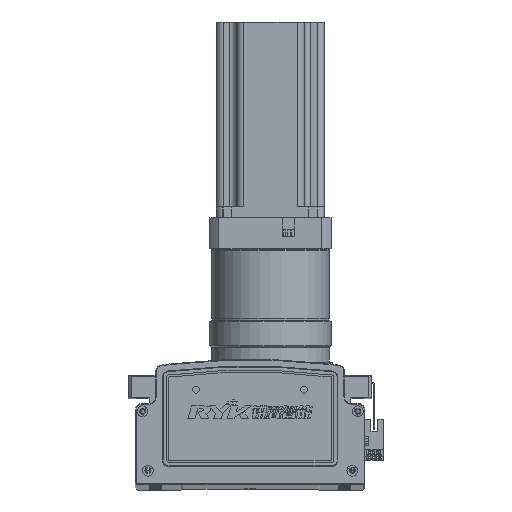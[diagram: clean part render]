
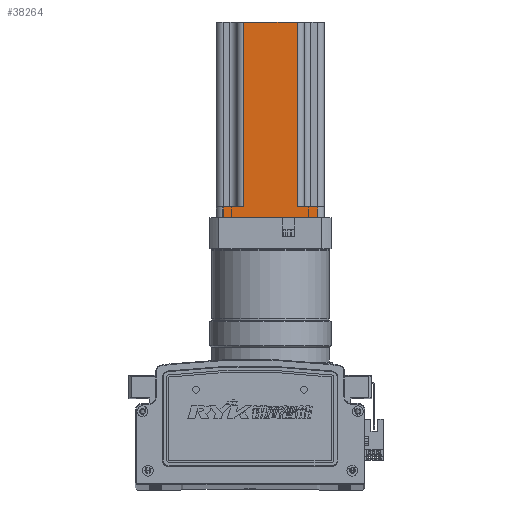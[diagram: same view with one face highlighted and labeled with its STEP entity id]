
A CAD part, top view. The second image highlights one B-rep face of the part: STEP entity #38264.
In plain terms, the highlighted planar face has unit normal (0, 0, 1) as drawn and (0, -1, 0) by its records, which use the part's own axes.
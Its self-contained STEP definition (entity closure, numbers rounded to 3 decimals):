
#1243 = DIRECTION ( 'NONE',  ( 1., 0., 0. ) ) ;
#1248 = CARTESIAN_POINT ( 'NONE',  ( -87.587, -40.37, 8. ) ) ;
#1254 = CARTESIAN_POINT ( 'NONE',  ( -87.587, -40.37, 0. ) ) ;
#1257 = DIRECTION ( 'NONE',  ( 1., 0., 0. ) ) ;
#1258 = CARTESIAN_POINT ( 'NONE',  ( -87.587, -40.37, 145. ) ) ;
#1261 = DIRECTION ( 'NONE',  ( 1., 0., 0. ) ) ;
#1274 = DIRECTION ( 'NONE',  ( 1., 0., 0. ) ) ;
#1288 = CARTESIAN_POINT ( 'NONE',  ( -7.587, -40.37, 8. ) ) ;
#1336 = CARTESIAN_POINT ( 'NONE',  ( -27.587, -40.37, 145. ) ) ;
#1339 = DIRECTION ( 'NONE',  ( 0., 0., 1. ) ) ;
#1441 = CARTESIAN_POINT ( 'NONE',  ( -12.587, -40.37, 145. ) ) ;
#1465 = DIRECTION ( 'NONE',  ( 0., 0., 1. ) ) ;
#22113 = CARTESIAN_POINT ( 'NONE',  ( -82.587, -40.37, 145. ) ) ;
#22124 = DIRECTION ( 'NONE',  ( 0., 0., -1. ) ) ;
#26798 = ORIENTED_EDGE ( 'NONE', *, *, #78685, .F. ) ;
#26799 = ORIENTED_EDGE ( 'NONE', *, *, #78712, .T. ) ;
#26832 = ORIENTED_EDGE ( 'NONE', *, *, #78697, .F. ) ;
#26855 = ORIENTED_EDGE ( 'NONE', *, *, #78679, .T. ) ;
#26876 = ORIENTED_EDGE ( 'NONE', *, *, #78774, .T. ) ;
#26884 = ORIENTED_EDGE ( 'NONE', *, *, #78669, .T. ) ;
#26905 = ORIENTED_EDGE ( 'NONE', *, *, #78684, .F. ) ;
#26909 = ORIENTED_EDGE ( 'NONE', *, *, #78673, .T. ) ;
#38264 = ADVANCED_FACE ( 'NONE', ( #58300 ), #57664, .F. ) ;
#53628 = VERTEX_POINT ( 'NONE', #56430 ) ;
#53631 = VERTEX_POINT ( 'NONE', #56391 ) ;
#53647 = VERTEX_POINT ( 'NONE', #56456 ) ;
#53677 = VERTEX_POINT ( 'NONE', #56566 ) ;
#53698 = VERTEX_POINT ( 'NONE', #56500 ) ;
#55280 = EDGE_LOOP ( 'NONE', ( #26905, #26884, #26855, #26876, #26832, #26799, #26798, #26909 ) ) ;
#56391 = CARTESIAN_POINT ( 'NONE',  ( -82.587, -40.37, 8. ) ) ;
#56430 = CARTESIAN_POINT ( 'NONE',  ( -27.587, -40.37, 145. ) ) ;
#56456 = CARTESIAN_POINT ( 'NONE',  ( -12.587, -40.37, 8. ) ) ;
#56500 = CARTESIAN_POINT ( 'NONE',  ( -27.587, -40.37, 8. ) ) ;
#56566 = CARTESIAN_POINT ( 'NONE',  ( -67.587, -40.37, 8. ) ) ;
#57664 = PLANE ( 'NONE',  #61501 ) ;
#57668 = DIRECTION ( 'NONE',  ( 0., 1., 0. ) ) ;
#57695 = DIRECTION ( 'NONE',  ( -1., 0., 0. ) ) ;
#57708 = CARTESIAN_POINT ( 'NONE',  ( -87.587, -40.37, 145. ) ) ;
#58300 = FACE_OUTER_BOUND ( 'NONE', #55280, .T. ) ;
#60469 = VERTEX_POINT ( 'NONE', #63661 ) ;
#60485 = VERTEX_POINT ( 'NONE', #63655 ) ;
#60523 = VERTEX_POINT ( 'NONE', #63719 ) ;
#61501 = AXIS2_PLACEMENT_3D ( 'NONE', #57708, #57668, #57695 ) ;
#63655 = CARTESIAN_POINT ( 'NONE',  ( -12.587, -40.37, 0. ) ) ;
#63661 = CARTESIAN_POINT ( 'NONE',  ( -82.587, -40.37, 0. ) ) ;
#63719 = CARTESIAN_POINT ( 'NONE',  ( -67.587, -40.37, 145. ) ) ;
#78669 = EDGE_CURVE ( 'NONE', #53631, #60469, #88433, .T. ) ;
#78673 = EDGE_CURVE ( 'NONE', #60523, #53677, #88545, .T. ) ;
#78679 = EDGE_CURVE ( 'NONE', #60469, #60485, #88496, .T. ) ;
#78684 = EDGE_CURVE ( 'NONE', #53631, #53677, #88539, .T. ) ;
#78685 = EDGE_CURVE ( 'NONE', #60523, #53628, #88504, .T. ) ;
#78697 = EDGE_CURVE ( 'NONE', #53698, #53647, #88512, .T. ) ;
#78712 = EDGE_CURVE ( 'NONE', #53698, #53628, #88570, .T. ) ;
#78774 = EDGE_CURVE ( 'NONE', #60485, #53647, #88202, .T. ) ;
#82433 = CARTESIAN_POINT ( 'NONE',  ( -67.587, -40.37, 145. ) ) ;
#82442 = DIRECTION ( 'NONE',  ( 0., 0., -1. ) ) ;
#88202 = LINE ( 'NONE', #1441, #88261 ) ;
#88261 = VECTOR ( 'NONE', #1465, 1000. ) ;
#88433 = LINE ( 'NONE', #22113, #88513 ) ;
#88489 = VECTOR ( 'NONE', #1243, 1000. ) ;
#88490 = VECTOR ( 'NONE', #1274, 1000. ) ;
#88496 = LINE ( 'NONE', #1254, #88489 ) ;
#88503 = VECTOR ( 'NONE', #1257, 1000. ) ;
#88504 = LINE ( 'NONE', #1258, #88507 ) ;
#88507 = VECTOR ( 'NONE', #1261, 1000. ) ;
#88512 = LINE ( 'NONE', #1288, #88490 ) ;
#88513 = VECTOR ( 'NONE', #22124, 1000. ) ;
#88539 = LINE ( 'NONE', #1248, #88503 ) ;
#88545 = LINE ( 'NONE', #82433, #88546 ) ;
#88546 = VECTOR ( 'NONE', #82442, 1000. ) ;
#88570 = LINE ( 'NONE', #1336, #88603 ) ;
#88603 = VECTOR ( 'NONE', #1339, 1000. ) ;
